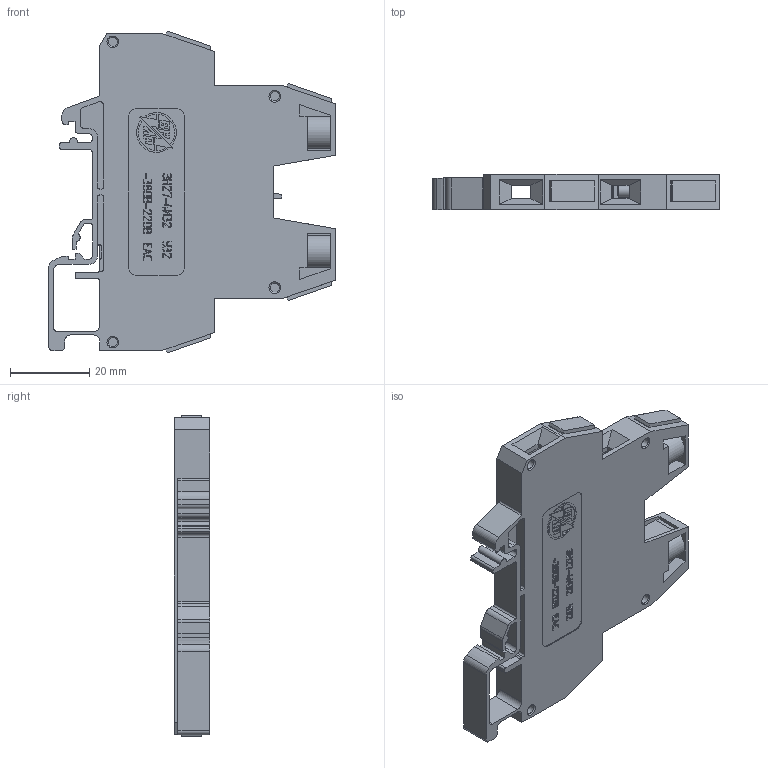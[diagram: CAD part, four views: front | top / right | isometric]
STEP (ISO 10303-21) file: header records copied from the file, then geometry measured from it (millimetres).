
FILE_DESCRIPTION(('STEP AP214'), '1');
FILE_NAME('Ñáîðêà ÇÍ27-4È32 - ñ ÊÒ14 (çàêàç÷èêàì)', '2022-05-17T10:51:16', (''), (''), 'ASCON STEP Converter 1.6', 'ASCON Math Kernel', '');
FILE_SCHEMA(('AUTOMOTIVE_DESIGN { 1 0 10303 214 3 1 1}'));
Length unit declared in the file: millimetre
Bounding box: 72.1 x 8.9 x 81.02 mm (x, y, z)
Volume: 15370.8 mm3; surface area: 22403.5 mm2
Topology: 7 solids, 7 shells, 1898 faces, 5436 edges, 3607 vertices
Faces by surface type: plane 1122, cylinder 757, cone 13, sphere 2, bspline 2, torus 2
Full cylindrical faces by diameter (mm): 2 x2, 2.3 x2, 2.34 x4, 2.35 x2, 2.5 x1, 3 x4, 5 x1, 5.5 x2, 5.7 x2
Entity records: 77445 total; most frequent: CARTESIAN_POINT 11093, ORIENTED_EDGE 10802, DIRECTION 10759, EDGE_CURVE 5401, LINE 3795, VECTOR 3795, VERTEX_POINT 3606, AXIS2_PLACEMENT_3D 3482
